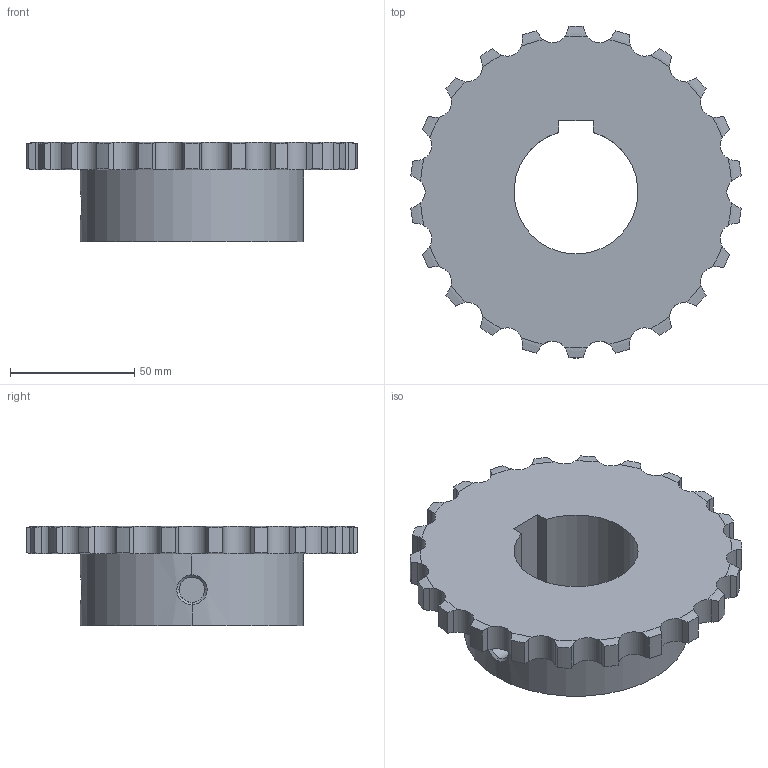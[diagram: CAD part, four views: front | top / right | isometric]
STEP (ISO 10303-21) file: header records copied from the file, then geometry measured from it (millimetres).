
FILE_DESCRIPTION((''),'2;1');
FILE_NAME('510-401-5022_PRT','2021-02-13T',('Brieden'),('Brieden'),'PRO/ENGINEER BY PARAMETRIC TECHNOLOGY CORPORATION, 2010160','PRO/ENGINEER BY PARAMETRIC TECHNOLOGY CORPORATION, 2010160','');
FILE_SCHEMA(('AUTOMOTIVE_DESIGN { 1 0 10303 214 1 1 1 1 }'));
Length unit declared in the file: millimetre
Products named in the file (1): 510-401-5022_PRT
Bounding box: 133.19 x 133.85 x 40 mm (x, y, z)
Volume: 242552.4 mm3; surface area: 43060.5 mm2
Topology: 1 solids, 1 shells, 153 faces, 441 edges, 292 vertices
Faces by surface type: cylinder 95, torus 44, plane 8, bspline 6
Entity records: 7588 total; most frequent: CARTESIAN_POINT 2425, ORIENTED_EDGE 882, DIRECTION 689, PRESENTATION_STYLE_ASSIGNMENT 442, STYLED_ITEM 442, CURVE_STYLE 441, EDGE_CURVE 441, VERTEX_POINT 292
